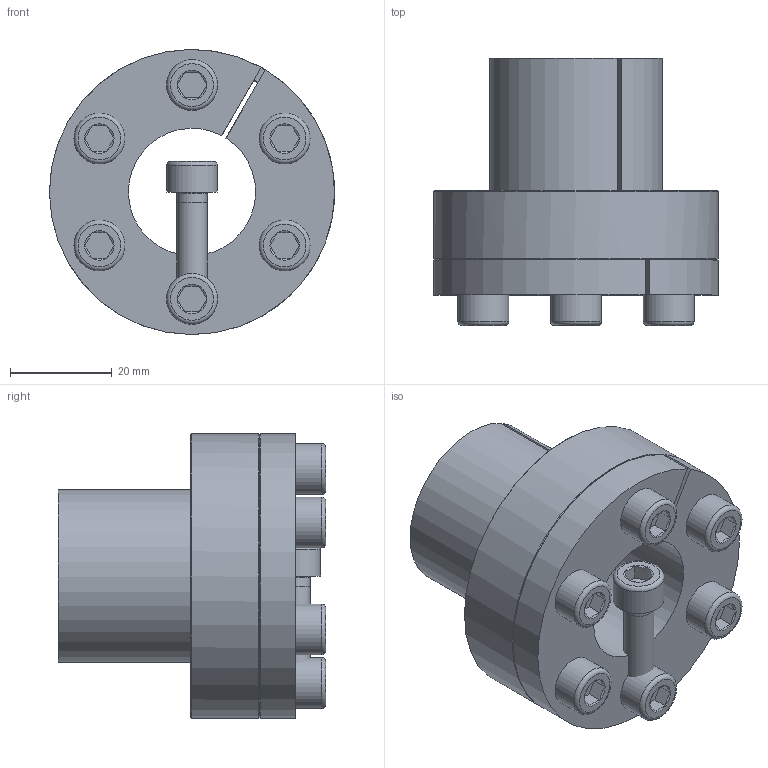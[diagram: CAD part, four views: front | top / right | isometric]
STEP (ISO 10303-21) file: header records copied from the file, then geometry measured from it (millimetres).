
FILE_DESCRIPTION( ( 'Unknown' ), '1' );
FILE_NAME( 'C:/Dokumente und Einstellungen/Sven/Desktop/homepage/cad - homepage/KBS80/KBS 80 - 25 x 34.stp', 'Unknown', ( 'Unknown' ), ( 'Unknown' ), 'XStep 1.0', 'Unknown', ' ' );
FILE_SCHEMA( ( 'automotive_design' ) );
Length unit declared in the file: millimetre
Products named in the file (8): Assem1; KBS 80 - 25 x 34; ISO EN DIN 4762 M6x18; ISO EN DIN 4762 M6x18-oa0; ISO EN DIN 4762 M6x18-oa1; ISO EN DIN 4762 M6x18-oa2; ISO EN DIN 4762 M6x18-oa3; ISO EN DIN 4762 M6x18-oa4
Bounding box: 56 x 52.5 x 56 mm (x, y, z)
Volume: 105443.5 mm3; surface area: 42215.3 mm2
Topology: 14 solids, 14 shells, 352 faces, 666 edges, 388 vertices
Faces by surface type: plane 160, cone 98, cylinder 70, torus 24
Full cylindrical faces by diameter (mm): 5 x12, 6 x36, 10 x12, 56 x2
Entity records: 4529 total; most frequent: CARTESIAN_POINT 931, DIRECTION 724, ORIENTED_EDGE 534, AXIS2_PLACEMENT_3D 317, EDGE_CURVE 267, EDGE_LOOP 265, FACE_OUTER_BOUND 219, VERTEX_POINT 180
